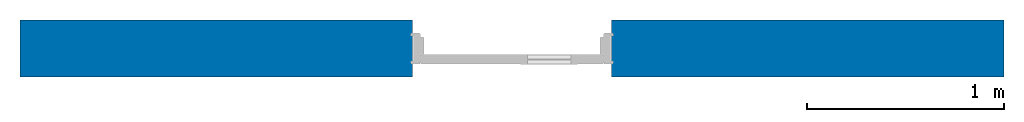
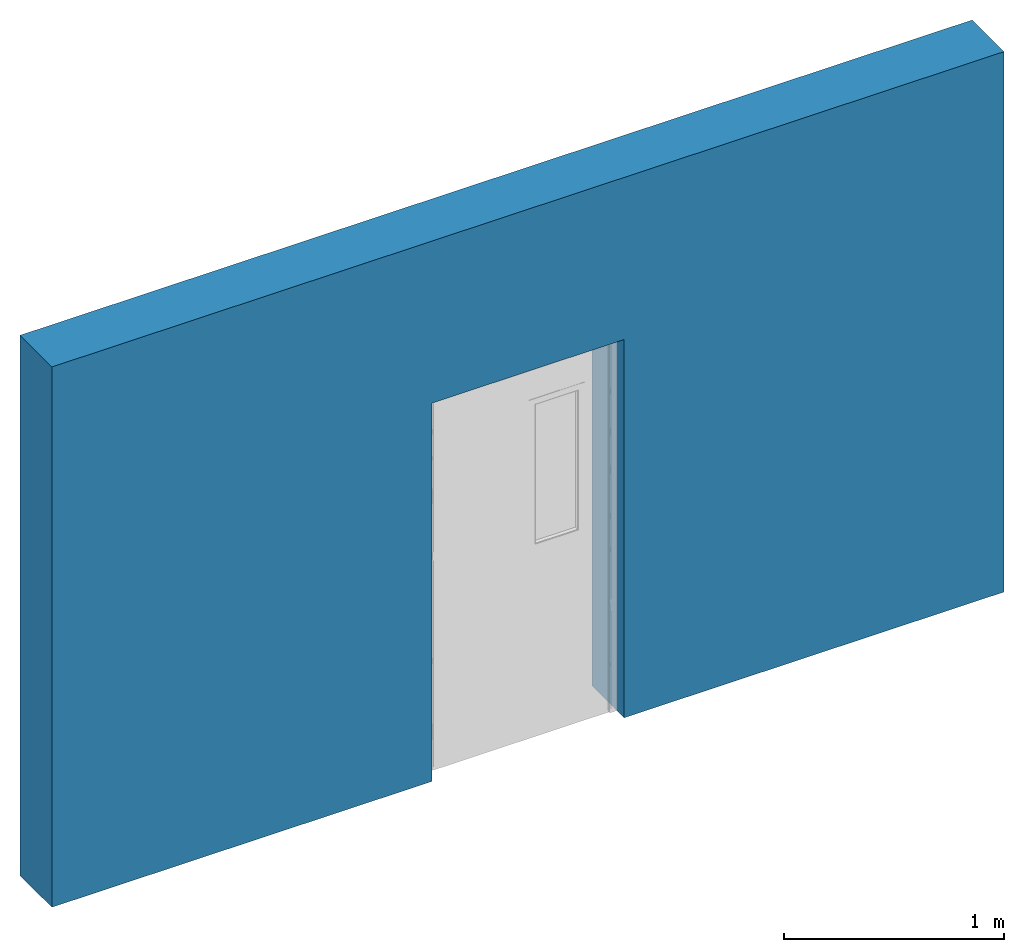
# One storey, incomplete: 1 wall, 1 opening.
"""IFC2X3 building model written with IfcOpenShell, lengths in millimetres."""

from ifc_helpers import new_model, entity, si_unit, converted_unit, derived_unit, direction, frame, frame_2d, origin, place, context, subcontext, project, spatial, rectangle, extrude, material, layer, layer_set, layer_usage, type_object, element, save


model = new_model("IFC2X3")

# Units and contexts
model_context = context("Model", 3, precision=0.01, world=origin(), true_north=direction((6.12303176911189e-17, 1.0)))
body_context = subcontext(model_context, "Body", "Model", "MODEL_VIEW")
ifc_project = project(units=[si_unit("LENGTHUNIT", "METRE", prefix="MILLI"), si_unit("AREAUNIT", "SQUARE_METRE"), si_unit("VOLUMEUNIT", "CUBIC_METRE"), converted_unit("PLANEANGLEUNIT", "DEGREE", entity("IfcRatioMeasure", 0.0174532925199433), si_unit("PLANEANGLEUNIT", "RADIAN"), dimensions=[0, 0, 0, 0, 0, 0, 0]), si_unit("MASSUNIT", "GRAM", prefix="KILO"), si_unit("TIMEUNIT", "SECOND"), si_unit("FREQUENCYUNIT", "HERTZ"), si_unit("THERMODYNAMICTEMPERATUREUNIT", "DEGREE_CELSIUS"), derived_unit("THERMALTRANSMITTANCEUNIT", [(si_unit("MASSUNIT", "GRAM", prefix="KILO"), 1), (si_unit("THERMODYNAMICTEMPERATUREUNIT", "KELVIN"), -1), (si_unit("TIMEUNIT", "SECOND"), -3)]), derived_unit("VOLUMETRICFLOWRATEUNIT", [(si_unit("LENGTHUNIT", "METRE"), 3), (si_unit("TIMEUNIT", "SECOND"), -1)]), si_unit("ELECTRICCURRENTUNIT", "AMPERE"), si_unit("ELECTRICVOLTAGEUNIT", "VOLT"), si_unit("POWERUNIT", "WATT"), si_unit("FORCEUNIT", "NEWTON", prefix="KILO"), si_unit("ILLUMINANCEUNIT", "LUX"), si_unit("LUMINOUSFLUXUNIT", "LUMEN"), si_unit("LUMINOUSINTENSITYUNIT", "CANDELA"), si_unit("PRESSUREUNIT", "PASCAL")], contexts=[model_context])

# Site, building, storey
site_placement = place(None, origin())
site = spatial("IfcSite", under=ifc_project, at=site_placement, Name="Default", CompositionType="ELEMENT")
building_placement = place(site_placement, origin())
building = spatial("IfcBuilding", under=site, at=building_placement, CompositionType="ELEMENT")
storey_placement = place(building_placement, origin())
storey = spatial("IfcBuildingStorey", under=building, at=storey_placement, Name="Level 0", CompositionType="ELEMENT", Elevation=0.0)

# Wall, opening
ifc_material_1 = material(Name="Brick, Common")
ifc_layer_1 = layer(ifc_material_1, 102.5)
ifc_material_2 = material(Name="Fiberglass Batt")
ifc_layer_2 = layer(ifc_material_2, 75.0)
ifc_material_3 = material(Name="Concrete Masonry Units")
ifc_layer_3 = layer(ifc_material_3, 100.0)
ifc_material_4 = material(Name="Gypsum Wall Board")
ifc_layer_4 = layer(ifc_material_4, 12.5)
ifc_layer_set = layer_set([ifc_layer_1, ifc_layer_2, ifc_layer_3, ifc_layer_4], Name="Basic Wall:Cav - 102 75i 100 p - Lwt")
ifc_layer_usage = layer_usage(ifc_layer_set, "AXIS2", "POSITIVE", -145.0)
wall_type = type_object("IfcWallType", Name="Basic Wall:Cav - 102 75i 100 p - Lwt", PredefinedType="STANDARD", material=ifc_layer_set)
wall_placement = place(storey_placement, frame((-2504.9500028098, -2.69454281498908, 0.0)))
wall = element("IfcWallStandardCase", 1, at=wall_placement, inside=storey, type_object=wall_type, material=ifc_layer_usage, Name="Basic Wall:Cav - 102 75i 100 p - Lwt", ObjectType="Basic Wall:Cav - 102 75i 100 p - Lwt", context=body_context, shape_type="SweptSolid", body=[
    extrude(rectangle(XDim=5000.0, YDim=290.0, at=frame_2d((2500.0, 0.0), x_axis=(-1.0, 0.0))), origin(), (0.0, 0.0, 1.0), 3000.0),
])
opening_placement = place(wall_placement, frame((2504.9500028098, 2.69454281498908, 0.0)))
element("IfcOpeningElement", 2, at=opening_placement, cuts=wall, Name="Basic Wall:Cav - 102 75i 100 p - Lwt", ObjectType="Opening", context=body_context, shape_type="SweptSolid", body=[
    extrude(rectangle(XDim=2099.99999999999, YDim=1010.0, at=frame_2d((0.0, 0.0), x_axis=(0.0, 1.0))), frame((-4.95000280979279, -152.694542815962, 1050.0), z_axis=(0.0, 1.0, 0.0), x_axis=(1.0, 0.0, 0.0)), (0.0, 0.0, 1.0), 300.000000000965),
])

save(model, "model.ifc")
